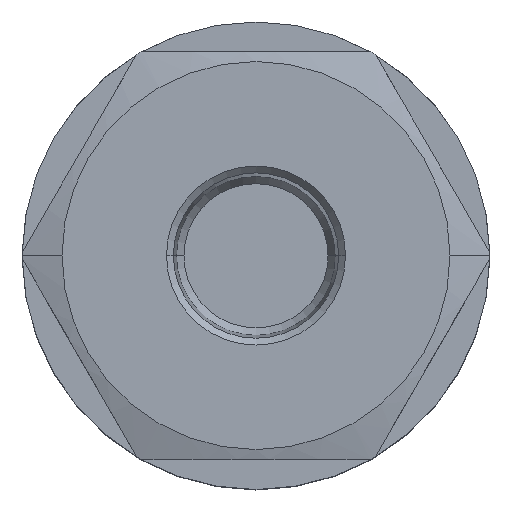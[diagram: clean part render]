
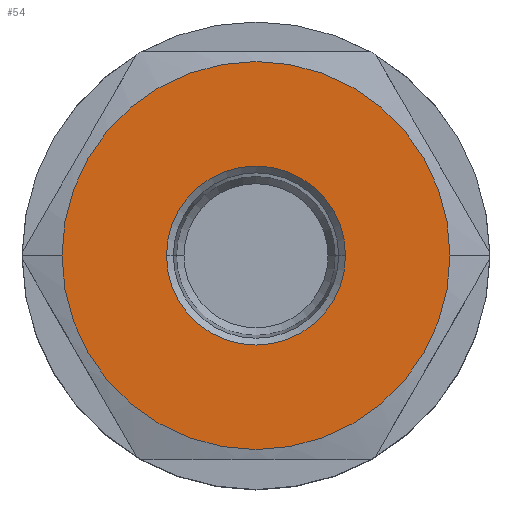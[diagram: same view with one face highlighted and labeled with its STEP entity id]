
A CAD part, top view. The second image highlights one B-rep face of the part: STEP entity #54.
In plain terms, the highlighted planar face has unit normal (0, 0, 1).
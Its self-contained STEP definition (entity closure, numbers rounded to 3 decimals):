
#54=ADVANCED_FACE('',(#249,#250),#248,.F.);
#248=PLANE('',#858);
#249=FACE_OUTER_BOUND('',#859,.T.);
#250=FACE_BOUND('',#860,.T.);
#855=CARTESIAN_POINT('',(44.85,-40.53,55.));
#856=DIRECTION('',(0.,0.,-1.));
#857=DIRECTION('',(-1.,0.,0.));
#858=AXIS2_PLACEMENT_3D('',#855,#856,#857);
#859=EDGE_LOOP('',(#1314,#1315));
#860=EDGE_LOOP('',(#1316,#1317));
#1314=ORIENTED_EDGE('',*,*,#1625,.F.);
#1315=ORIENTED_EDGE('',*,*,#1626,.F.);
#1316=ORIENTED_EDGE('',*,*,#1627,.T.);
#1317=ORIENTED_EDGE('',*,*,#1628,.T.);
#1625=EDGE_CURVE('',#2074,#2075,#2076,.T.);
#1626=EDGE_CURVE('',#2075,#2074,#2082,.T.);
#1627=EDGE_CURVE('',#2088,#2089,#2090,.T.);
#1628=EDGE_CURVE('',#2089,#2088,#2096,.T.);
#2074=VERTEX_POINT('',#3033);
#2075=VERTEX_POINT('',#3034);
#2076=CIRCLE('',#3038,19.5);
#2082=CIRCLE('',#3042,19.5);
#2088=VERTEX_POINT('',#3043);
#2089=VERTEX_POINT('',#3044);
#2090=CIRCLE('',#3048,9.);
#2096=CIRCLE('',#3052,9.);
#3033=CARTESIAN_POINT('',(19.5,0.,55.));
#3034=CARTESIAN_POINT('',(-19.5,0.,55.));
#3035=CARTESIAN_POINT('',(0.,0.,55.));
#3036=DIRECTION('',(0.,0.,-1.));
#3037=DIRECTION('',(-1.,0.,0.));
#3038=AXIS2_PLACEMENT_3D('',#3035,#3036,#3037);
#3039=CARTESIAN_POINT('',(0.,0.,55.));
#3040=DIRECTION('',(0.,0.,-1.));
#3041=DIRECTION('',(-1.,0.,0.));
#3042=AXIS2_PLACEMENT_3D('',#3039,#3040,#3041);
#3043=CARTESIAN_POINT('',(-9.,0.,55.));
#3044=CARTESIAN_POINT('',(9.,0.,55.));
#3045=CARTESIAN_POINT('',(0.,0.,55.));
#3046=DIRECTION('',(0.,0.,-1.));
#3047=DIRECTION('',(-1.,0.,0.));
#3048=AXIS2_PLACEMENT_3D('',#3045,#3046,#3047);
#3049=CARTESIAN_POINT('',(0.,0.,55.));
#3050=DIRECTION('',(0.,0.,-1.));
#3051=DIRECTION('',(-1.,0.,0.));
#3052=AXIS2_PLACEMENT_3D('',#3049,#3050,#3051);
